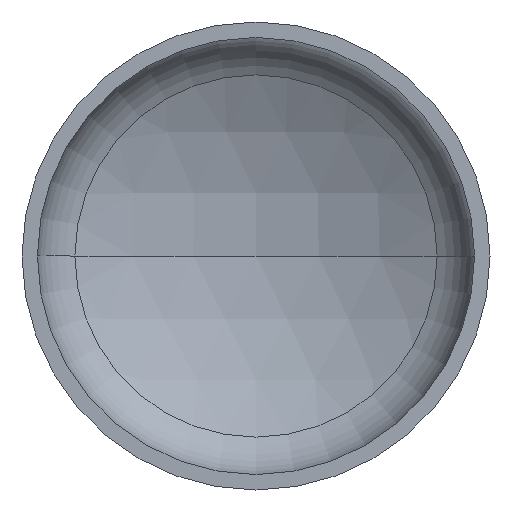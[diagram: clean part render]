
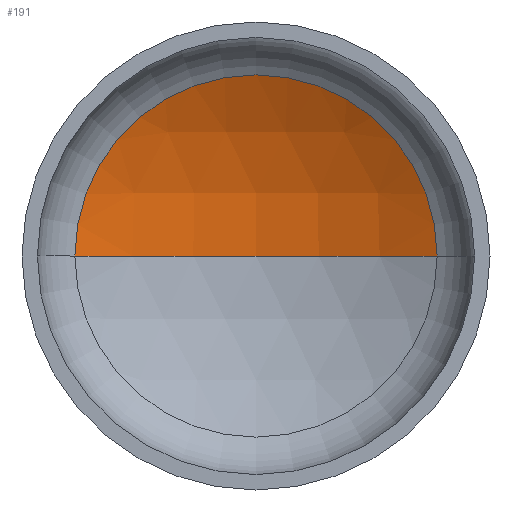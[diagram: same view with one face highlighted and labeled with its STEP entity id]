
A CAD part, front view. The second image highlights one B-rep face of the part: STEP entity #191.
In plain terms, the highlighted spherical face has radius 800 mm.
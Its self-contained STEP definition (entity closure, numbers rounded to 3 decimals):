
#12 = DIRECTION ( 'NONE',  ( 0., 0., -1. ) ) ;
#27 = EDGE_LOOP ( 'NONE', ( #119, #108, #41 ) ) ;
#34 = AXIS2_PLACEMENT_3D ( 'NONE', #216, #12, #256 ) ;
#36 = VERTEX_POINT ( 'NONE', #259 ) ;
#41 = ORIENTED_EDGE ( 'NONE', *, *, #128, .T. ) ;
#49 = AXIS2_PLACEMENT_3D ( 'NONE', #228, #230, #278 ) ;
#51 = AXIS2_PLACEMENT_3D ( 'NONE', #376, #203, #215 ) ;
#53 = AXIS2_PLACEMENT_3D ( 'NONE', #115, #399, #358 ) ;
#64 = VERTEX_POINT ( 'NONE', #342 ) ;
#108 = ORIENTED_EDGE ( 'NONE', *, *, #150, .T. ) ;
#115 = CARTESIAN_POINT ( 'NONE',  ( 0., 235.659, 0. ) ) ;
#116 = VERTEX_POINT ( 'NONE', #309 ) ;
#119 = ORIENTED_EDGE ( 'NONE', *, *, #159, .F. ) ;
#128 = EDGE_CURVE ( 'NONE', #36, #64, #181, .T. ) ;
#150 = EDGE_CURVE ( 'NONE', #116, #36, #300, .T. ) ;
#159 = EDGE_CURVE ( 'NONE', #116, #64, #361, .T. ) ;
#181 = CIRCLE ( 'NONE', #53, 386.977 ) ;
#191 = ADVANCED_FACE ( 'NONE', ( #352 ), #294, .F. ) ;
#203 = DIRECTION ( 'NONE',  ( 0., 0., -1. ) ) ;
#215 = DIRECTION ( 'NONE',  ( -1., 0., 0. ) ) ;
#216 = CARTESIAN_POINT ( 'NONE',  ( 0., -464.518, 0. ) ) ;
#228 = CARTESIAN_POINT ( 'NONE',  ( 0., -464.518, 0. ) ) ;
#230 = DIRECTION ( 'NONE',  ( 0., 0., 1. ) ) ;
#256 = DIRECTION ( 'NONE',  ( -1., 0., 0. ) ) ;
#259 = CARTESIAN_POINT ( 'NONE',  ( 386.977, 235.659, 0. ) ) ;
#278 = DIRECTION ( 'NONE',  ( 1., 0., 0. ) ) ;
#294 = SPHERICAL_SURFACE ( 'NONE', #34, 800. ) ;
#300 = CIRCLE ( 'NONE', #51, 800. ) ;
#309 = CARTESIAN_POINT ( 'NONE',  ( 0., 335.482, 0. ) ) ;
#342 = CARTESIAN_POINT ( 'NONE',  ( -386.977, 235.659, 0. ) ) ;
#352 = FACE_OUTER_BOUND ( 'NONE', #27, .T. ) ;
#358 = DIRECTION ( 'NONE',  ( 1., 0., 0. ) ) ;
#361 = CIRCLE ( 'NONE', #49, 800. ) ;
#376 = CARTESIAN_POINT ( 'NONE',  ( 0., -464.518, 0. ) ) ;
#399 = DIRECTION ( 'NONE',  ( 0., -1., 0. ) ) ;
